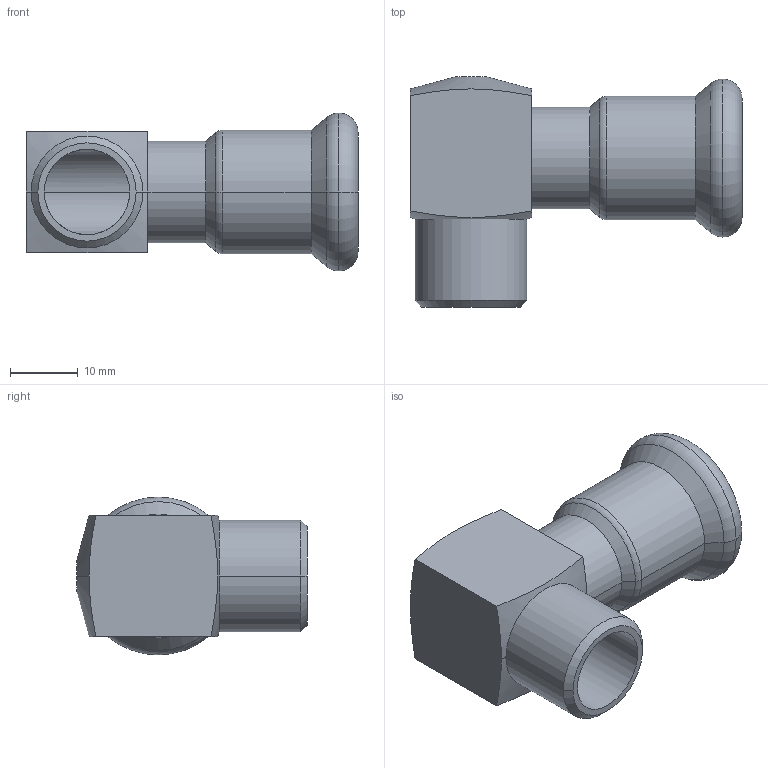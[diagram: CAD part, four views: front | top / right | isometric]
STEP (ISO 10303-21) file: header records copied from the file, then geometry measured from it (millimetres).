
FILE_DESCRIPTION(('CoCreate Modeling STEP Export'),'2;1');
FILE_NAME('C1428 15xR3-8.stp','2014-11-12T15:33:58',(''),(''),'CoCreate Modeling STEP processor for AP214 (Solid Model)','CoCreate Modeling 17.00A 17-Jun-2010 (C) Parametric Technology GmbH','');
FILE_SCHEMA(('AUTOMOTIVE_DESIGN { 1 0 10303 214 1 1 1 1 }'));
Length unit declared in the file: millimetre
Products named in the file (2): C1428_15xR3-8
Assembly tree (1 placements, depth 2):
  C1428_15xR3-8
    C1428_15xR3-8
Bounding box: 49 x 34 x 23.3 mm (x, y, z)
Volume: 8273.7 mm3; surface area: 7044.4 mm2
Topology: 1 solids, 1 shells, 39 faces, 86 edges, 52 vertices
Faces by surface type: cylinder 14, cone 10, plane 9, torus 6
Entity records: 1607 total; most frequent: CARTESIAN_POINT 815, ORIENTED_EDGE 172, DIRECTION 130, EDGE_CURVE 86, VERTEX_POINT 52, AXIS2_PLACEMENT_3D 51, EDGE_LOOP 44, FACE_OUTER_BOUND 39
